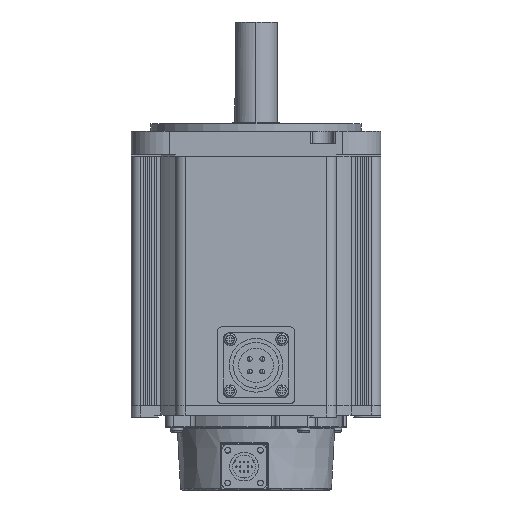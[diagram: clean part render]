
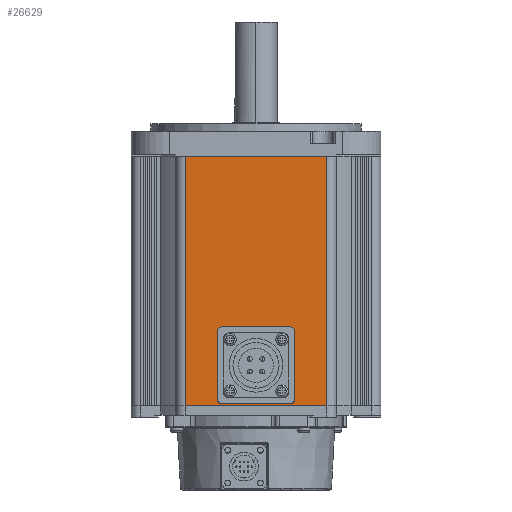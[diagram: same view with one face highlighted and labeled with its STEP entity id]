
A CAD part, front view. The second image highlights one B-rep face of the part: STEP entity #26629.
In plain terms, the highlighted planar face has unit normal (0, -1, 0) as drawn and (0, 1, 0) by its records, which use the part's own axes.
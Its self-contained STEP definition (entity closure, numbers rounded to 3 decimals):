
#68 = VERTEX_POINT ( 'NONE', #10480 ) ;
#189 = AXIS2_PLACEMENT_3D ( 'NONE', #1067, #8362, #20135 ) ;
#819 = ORIENTED_EDGE ( 'NONE', *, *, #21297, .T. ) ;
#916 = LINE ( 'NONE', #9870, #7671 ) ;
#1067 = CARTESIAN_POINT ( 'NONE',  ( 0., 65., 21. ) ) ;
#1980 = LINE ( 'NONE', #20199, #20257 ) ;
#2889 = FACE_BOUND ( 'NONE', #19966, .T. ) ;
#3352 = EDGE_CURVE ( 'NONE', #9535, #17205, #916, .T. ) ;
#3418 = DIRECTION ( 'NONE',  ( -1., 0., 0. ) ) ;
#3448 = LINE ( 'NONE', #21590, #24684 ) ;
#3485 = EDGE_CURVE ( 'NONE', #17205, #12578, #23615, .T. ) ;
#3654 = DIRECTION ( 'NONE',  ( -1., 0., 0. ) ) ;
#6431 = EDGE_LOOP ( 'NONE', ( #12422, #29772, #10700, #819 ) ) ;
#7671 = VECTOR ( 'NONE', #24730, 1000. ) ;
#8362 = DIRECTION ( 'NONE',  ( 0., 1., 0. ) ) ;
#8736 = EDGE_CURVE ( 'NONE', #20682, #12578, #1980, .T. ) ;
#8935 = CIRCLE ( 'NONE', #189, 5. ) ;
#9196 = AXIS2_PLACEMENT_3D ( 'NONE', #11170, #15755, #3654 ) ;
#9535 = VERTEX_POINT ( 'NONE', #18701 ) ;
#9870 = CARTESIAN_POINT ( 'NONE',  ( -37., 65., 130. ) ) ;
#9935 = AXIS2_PLACEMENT_3D ( 'NONE', #24778, #26960, #10446 ) ;
#10446 = DIRECTION ( 'NONE',  ( 1., 0., 0. ) ) ;
#10480 = CARTESIAN_POINT ( 'NONE',  ( 5., 65., 21. ) ) ;
#10700 = ORIENTED_EDGE ( 'NONE', *, *, #3352, .F. ) ;
#10938 = EDGE_CURVE ( 'NONE', #15172, #68, #11218, .T. ) ;
#11170 = CARTESIAN_POINT ( 'NONE',  ( 0., 65., 21. ) ) ;
#11218 = CIRCLE ( 'NONE', #9196, 5. ) ;
#12422 = ORIENTED_EDGE ( 'NONE', *, *, #8736, .T. ) ;
#12578 = VERTEX_POINT ( 'NONE', #17129 ) ;
#14754 = ORIENTED_EDGE ( 'NONE', *, *, #19373, .F. ) ;
#15172 = VERTEX_POINT ( 'NONE', #18771 ) ;
#15268 = ORIENTED_EDGE ( 'NONE', *, *, #10938, .F. ) ;
#15586 = FACE_OUTER_BOUND ( 'NONE', #6431, .T. ) ;
#15755 = DIRECTION ( 'NONE',  ( 0., 1., 0. ) ) ;
#17129 = CARTESIAN_POINT ( 'NONE',  ( -37., 65., 0. ) ) ;
#17205 = VERTEX_POINT ( 'NONE', #29906 ) ;
#18701 = CARTESIAN_POINT ( 'NONE',  ( 37., 65., 130. ) ) ;
#18771 = CARTESIAN_POINT ( 'NONE',  ( -5., 65., 21. ) ) ;
#19171 = DIRECTION ( 'NONE',  ( 0., 0., -1. ) ) ;
#19373 = EDGE_CURVE ( 'NONE', #68, #15172, #8935, .T. ) ;
#19966 = EDGE_LOOP ( 'NONE', ( #15268, #14754 ) ) ;
#20135 = DIRECTION ( 'NONE',  ( -1., 0., 0. ) ) ;
#20199 = CARTESIAN_POINT ( 'NONE',  ( -37., 65., 0. ) ) ;
#20257 = VECTOR ( 'NONE', #3418, 1000. ) ;
#20682 = VERTEX_POINT ( 'NONE', #25414 ) ;
#21297 = EDGE_CURVE ( 'NONE', #9535, #20682, #3448, .T. ) ;
#21590 = CARTESIAN_POINT ( 'NONE',  ( 37., 65., 130. ) ) ;
#22635 = PLANE ( 'NONE',  #9935 ) ;
#23615 = LINE ( 'NONE', #27225, #29594 ) ;
#24684 = VECTOR ( 'NONE', #19171, 1000. ) ;
#24730 = DIRECTION ( 'NONE',  ( -1., 0., 0. ) ) ;
#24778 = CARTESIAN_POINT ( 'NONE',  ( -37., 65., 130. ) ) ;
#25242 = DIRECTION ( 'NONE',  ( 0., 0., -1. ) ) ;
#25414 = CARTESIAN_POINT ( 'NONE',  ( 37., 65., 0. ) ) ;
#26629 = ADVANCED_FACE ( 'NONE', ( #2889, #15586 ), #22635, .F. ) ;
#26960 = DIRECTION ( 'NONE',  ( 0., -1., 0. ) ) ;
#27225 = CARTESIAN_POINT ( 'NONE',  ( -37., 65., 130. ) ) ;
#29594 = VECTOR ( 'NONE', #25242, 1000. ) ;
#29772 = ORIENTED_EDGE ( 'NONE', *, *, #3485, .F. ) ;
#29906 = CARTESIAN_POINT ( 'NONE',  ( -37., 65., 130. ) ) ;
